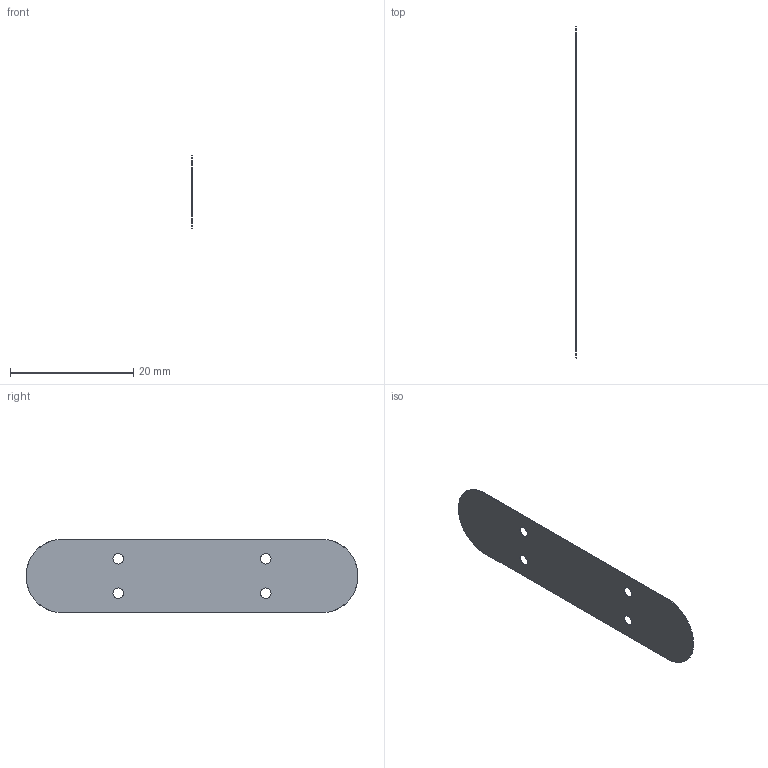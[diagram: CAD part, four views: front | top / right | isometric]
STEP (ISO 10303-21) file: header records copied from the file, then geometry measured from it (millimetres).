
FILE_DESCRIPTION(/* description */ (''),/* implementation_level */ '2;1');
FILE_NAME(/* name */ 'C27_R2_17_PTT_Bond_Film.step',/* time_stamp */ '2026-09-10T17:48:38-07:00',/* author */ (''),/* organization */ (''),/* preprocessor_version */ 'ST-DEVELOPER v20.1',/* originating_system */ 'Autodesk Translation Framework v15.8.0.0',/* authorisation */ '');
FILE_SCHEMA (('AUTOMOTIVE_DESIGN { 1 0 10303 214 3 1 1 }'));
Length unit declared in the file: millimetre
Products named in the file (1): 2026-09-10-17-48-38-979
Bounding box: 0.1 x 53.97 x 11.97 mm (x, y, z)
Volume: 60.6 mm3; surface area: 1226 mm2
Topology: 1 solids, 1 shells, 14 faces, 36 edges, 24 vertices
Faces by surface type: cylinder 8, torus 4, plane 2
Full cylindrical faces by diameter (mm): 1.7 x4
Entity records: 493 total; most frequent: DIRECTION 90, CARTESIAN_POINT 75, ORIENTED_EDGE 72, AXIS2_PLACEMENT_3D 39, EDGE_CURVE 36, CIRCLE 24, VERTEX_POINT 24, EDGE_LOOP 22
